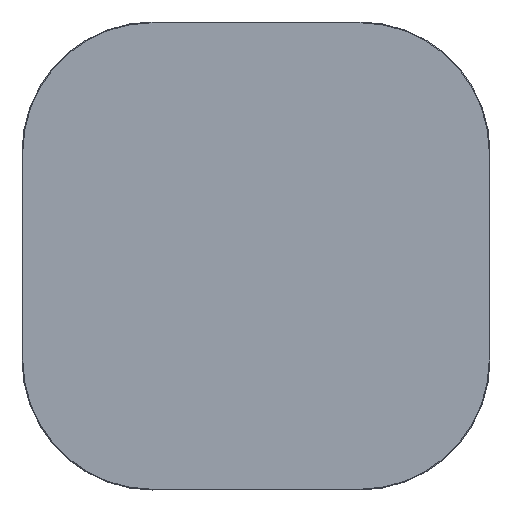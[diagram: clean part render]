
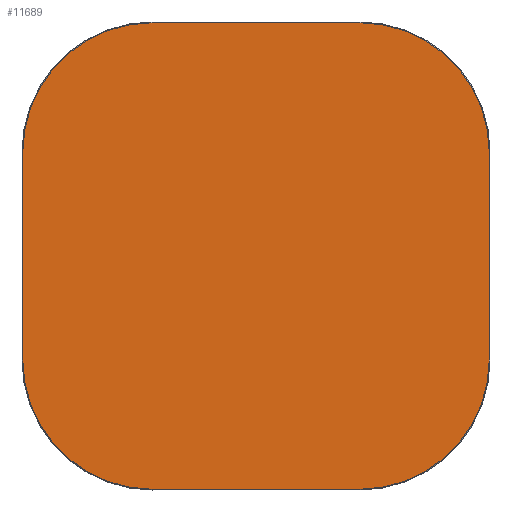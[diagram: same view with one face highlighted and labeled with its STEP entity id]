
A CAD part, top view. The second image highlights one B-rep face of the part: STEP entity #11689.
In plain terms, the highlighted planar face has unit normal (0, 0, 1).
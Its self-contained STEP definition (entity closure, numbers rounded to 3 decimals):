
#11614=CARTESIAN_POINT('',(0.,0.,20.));
#11615=DIRECTION('',(1.,0.,0.));
#11616=DIRECTION('',(0.,0.,1.));
#11617=AXIS2_PLACEMENT_3D('',#11614,#11616,#11615);
#11618=PLANE('',#11617);
#11619=CARTESIAN_POINT('',(-200.,-448.5,20.));
#11620=VERTEX_POINT('',#11619);
#11621=CARTESIAN_POINT('',(200.,-448.5,20.));
#11622=VERTEX_POINT('',#11621);
#11623=CARTESIAN_POINT('',(-200.,-448.5,20.));
#11624=DIRECTION('',(1.,0.,0.));
#11625=VECTOR('',#11624,400.);
#11626=LINE('',#11623,#11625);
#11627=EDGE_CURVE('',#11620,#11622,#11626,.T.);
#11628=ORIENTED_EDGE('E105',*,*,#11627,.T.);
#11629=CARTESIAN_POINT('',(448.5,-200.,20.));
#11630=VERTEX_POINT('',#11629);
#11631=CARTESIAN_POINT('',(200.,-200.,20.));
#11632=DIRECTION('',(0.,-1.,0.));
#11633=DIRECTION('',(0.,0.,1.));
#11634=AXIS2_PLACEMENT_3D('',#11631,#11633,#11632);
#11635=CIRCLE('',#11634,248.5);
#11636=EDGE_CURVE('',#11622,#11630,#11635,.T.);
#11637=ORIENTED_EDGE('E107',*,*,#11636,.T.);
#11638=CARTESIAN_POINT('',(448.5,200.,20.));
#11639=VERTEX_POINT('',#11638);
#11640=CARTESIAN_POINT('',(448.5,-200.,20.));
#11641=DIRECTION('',(0.,1.,0.));
#11642=VECTOR('',#11641,400.);
#11643=LINE('',#11640,#11642);
#11644=EDGE_CURVE('',#11630,#11639,#11643,.T.);
#11645=ORIENTED_EDGE('E109',*,*,#11644,.T.);
#11646=CARTESIAN_POINT('',(200.,448.5,20.));
#11647=VERTEX_POINT('',#11646);
#11648=CARTESIAN_POINT('',(200.,200.,20.));
#11649=DIRECTION('',(1.,0.,0.));
#11650=DIRECTION('',(0.,0.,1.));
#11651=AXIS2_PLACEMENT_3D('',#11648,#11650,#11649);
#11652=CIRCLE('',#11651,248.5);
#11653=EDGE_CURVE('',#11639,#11647,#11652,.T.);
#11654=ORIENTED_EDGE('E111',*,*,#11653,.T.);
#11655=CARTESIAN_POINT('',(-200.,448.5,20.));
#11656=VERTEX_POINT('',#11655);
#11657=CARTESIAN_POINT('',(200.,448.5,20.));
#11658=DIRECTION('',(-1.,0.,0.));
#11659=VECTOR('',#11658,400.);
#11660=LINE('',#11657,#11659);
#11661=EDGE_CURVE('',#11647,#11656,#11660,.T.);
#11662=ORIENTED_EDGE('E113',*,*,#11661,.T.);
#11663=CARTESIAN_POINT('',(-448.5,200.,20.));
#11664=VERTEX_POINT('',#11663);
#11665=CARTESIAN_POINT('',(-200.,200.,20.));
#11666=DIRECTION('',(0.,1.,0.));
#11667=DIRECTION('',(0.,0.,1.));
#11668=AXIS2_PLACEMENT_3D('',#11665,#11667,#11666);
#11669=CIRCLE('',#11668,248.5);
#11670=EDGE_CURVE('',#11656,#11664,#11669,.T.);
#11671=ORIENTED_EDGE('E115',*,*,#11670,.T.);
#11672=CARTESIAN_POINT('',(-448.5,-200.,20.));
#11673=VERTEX_POINT('',#11672);
#11674=CARTESIAN_POINT('',(-448.5,200.,20.));
#11675=DIRECTION('',(0.,-1.,0.));
#11676=VECTOR('',#11675,400.);
#11677=LINE('',#11674,#11676);
#11678=EDGE_CURVE('',#11664,#11673,#11677,.T.);
#11679=ORIENTED_EDGE('E117',*,*,#11678,.T.);
#11680=CARTESIAN_POINT('',(-200.,-200.,20.));
#11681=DIRECTION('',(-1.,0.,0.));
#11682=DIRECTION('',(-0.,0.,1.));
#11683=AXIS2_PLACEMENT_3D('',#11680,#11682,#11681);
#11684=CIRCLE('',#11683,248.5);
#11685=EDGE_CURVE('',#11673,#11620,#11684,.T.);
#11686=ORIENTED_EDGE('E119',*,*,#11685,.T.);
#11687=EDGE_LOOP('',(#11628,#11637,#11645,#11654,#11662,#11671,#11679,#11686));
#11688=FACE_OUTER_BOUND('',#11687,.T.);
#11689=ADVANCED_FACE('F2',(#11688),#11618,.T.);
